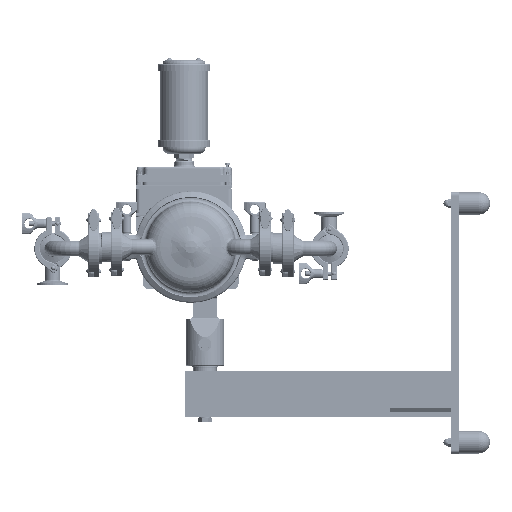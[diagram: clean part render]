
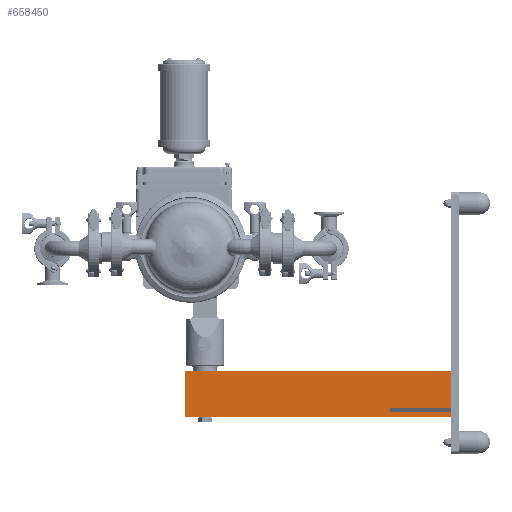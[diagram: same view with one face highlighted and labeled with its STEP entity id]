
A CAD part, left-side view. The second image highlights one B-rep face of the part: STEP entity #658450.
In plain terms, the highlighted planar face has unit normal (-1, 0, 0).
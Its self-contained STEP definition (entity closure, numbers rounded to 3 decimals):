
#649659=DIRECTION('',(0.,0.,-1.));
#649660=VECTOR('',#649659,2.39);
#649661=CARTESIAN_POINT('',(-1.,-16.92,-8.058));
#649662=LINE('',#649661,#649660);
#649691=DIRECTION('',(0.,0.,-1.));
#649692=VECTOR('',#649691,0.36);
#649693=CARTESIAN_POINT('',(-1.,-16.92,-10.698));
#649694=LINE('',#649693,#649692);
#650227=DIRECTION('',(0.,1.,0.));
#650228=VECTOR('',#650227,17.313);
#650229=CARTESIAN_POINT('',(-1.,-16.92,-11.058));
#650230=LINE('',#650229,#650228);
#650231=DIRECTION('',(0.,1.,0.));
#650232=VECTOR('',#650231,4.);
#650233=CARTESIAN_POINT('',(-1.,-16.92,-10.448));
#650234=LINE('',#650233,#650232);
#650235=DIRECTION('',(0.,0.,-1.));
#650236=VECTOR('',#650235,0.25);
#650237=CARTESIAN_POINT('',(-1.,-12.92,-10.448));
#650238=LINE('',#650237,#650236);
#650239=DIRECTION('',(0.,1.,0.));
#650240=VECTOR('',#650239,4.);
#650241=CARTESIAN_POINT('',(-1.,-16.92,-10.698));
#650242=LINE('',#650241,#650240);
#650845=DIRECTION('',(0.,1.,0.));
#650846=VECTOR('',#650845,17.313);
#650847=CARTESIAN_POINT('',(-1.,-16.92,-8.058));
#650848=LINE('',#650847,#650846);
#651443=DIRECTION('',(0.,0.,1.));
#651444=VECTOR('',#651443,3.);
#651445=CARTESIAN_POINT('',(-1.,0.393,-11.058));
#651446=LINE('',#651445,#651444);
#657260=CARTESIAN_POINT('',(-1.,-16.92,-11.058));
#657262=VERTEX_POINT('',#657260);
#657265=CARTESIAN_POINT('',(-1.,-16.92,-8.058));
#657267=VERTEX_POINT('',#657265);
#657288=CARTESIAN_POINT('',(-1.,-16.92,-10.448));
#657290=VERTEX_POINT('',#657288);
#657292=CARTESIAN_POINT('',(-1.,-16.92,-10.698));
#657294=VERTEX_POINT('',#657292);
#657296=CARTESIAN_POINT('',(-1.,-12.92,-10.448));
#657297=VERTEX_POINT('',#657296);
#657298=CARTESIAN_POINT('',(-1.,-12.92,-10.698));
#657299=VERTEX_POINT('',#657298);
#657301=CARTESIAN_POINT('',(-1.,0.393,-11.058));
#657303=VERTEX_POINT('',#657301);
#657304=CARTESIAN_POINT('',(-1.,0.393,-8.058));
#657305=VERTEX_POINT('',#657304);
#658432=CARTESIAN_POINT('',(-1.,0.143,-8.058));
#658433=DIRECTION('',(-1.,0.,0.));
#658434=DIRECTION('',(0.,0.,-1.));
#658435=AXIS2_PLACEMENT_3D('',#658432,#658433,#658434);
#658436=PLANE('',#658435);
#658438=ORIENTED_EDGE('',*,*,#658437,.T.);
#658440=ORIENTED_EDGE('',*,*,#658439,.T.);
#658442=ORIENTED_EDGE('',*,*,#658441,.F.);
#658443=ORIENTED_EDGE('',*,*,#657709,.T.);
#658444=ORIENTED_EDGE('',*,*,#658401,.T.);
#658445=ORIENTED_EDGE('',*,*,#658414,.T.);
#658446=ORIENTED_EDGE('',*,*,#658426,.F.);
#658447=ORIENTED_EDGE('',*,*,#657725,.T.);
#658448=EDGE_LOOP('',(#658438,#658440,#658442,#658443,#658444,#658445,#658446,
#658447));
#658449=FACE_OUTER_BOUND('',#658448,.F.);
#658450=ADVANCED_FACE('',(#658449),#658436,.T.);
#657709=EDGE_CURVE('',#657267,#657290,#649662,.T.);
#657725=EDGE_CURVE('',#657294,#657262,#649694,.T.);
#658401=EDGE_CURVE('',#657290,#657297,#650234,.T.);
#658414=EDGE_CURVE('',#657297,#657299,#650238,.T.);
#658426=EDGE_CURVE('',#657294,#657299,#650242,.T.);
#658437=EDGE_CURVE('',#657262,#657303,#650230,.T.);
#658439=EDGE_CURVE('',#657303,#657305,#651446,.T.);
#658441=EDGE_CURVE('',#657267,#657305,#650848,.T.);
